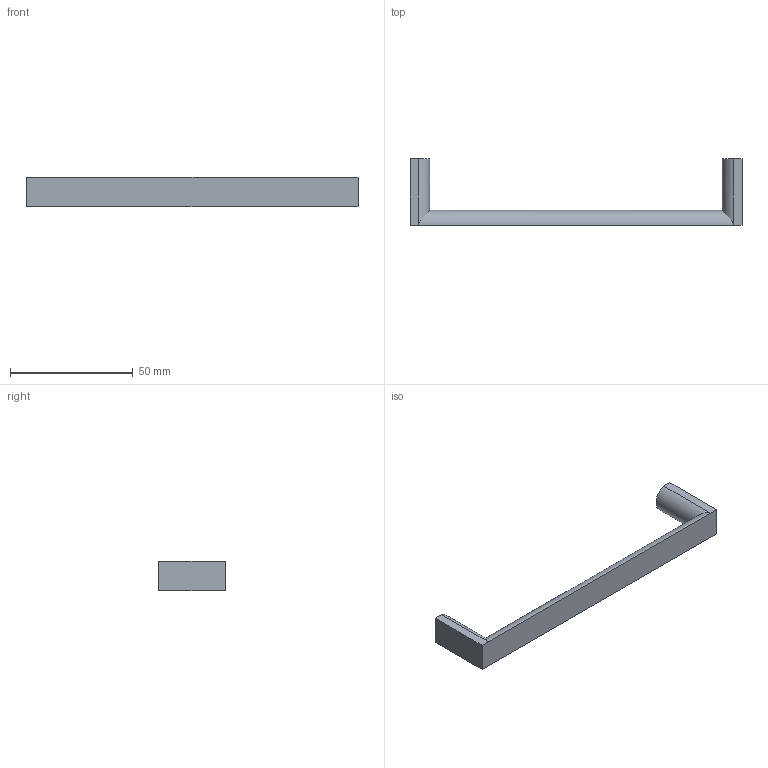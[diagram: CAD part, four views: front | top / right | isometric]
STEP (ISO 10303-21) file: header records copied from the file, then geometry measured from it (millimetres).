
FILE_DESCRIPTION( ( 'STEP AP214' ), '1' );
FILE_NAME( 'C:/Users/KOSH/Desktop/2021/Sunil/New folder/9995547.stp', '2021-11-15T13:10:53', ( '' ), ( '' ), ' ', 'PARTsolutions', ' ' );
FILE_SCHEMA( ( 'AUTOMOTIVE_DESIGN { 1 0 10303 214 1 1 1 1 }' ) );
Length unit declared in the file: millimetre
Products named in the file (1): _9995547
Bounding box: 135 x 27 x 12 mm (x, y, z)
Volume: 10939.4 mm3; surface area: 6158.8 mm2
Topology: 1 solids, 1 shells, 16 faces, 32 edges, 20 vertices
Faces by surface type: plane 11, cylinder 5
Full cylindrical faces by diameter (mm): 4 x2
Entity records: 642 total; most frequent: CARTESIAN_POINT 169, DIRECTION 68, ORIENTED_EDGE 60, EDGE_CURVE 30, AXIS2_PLACEMENT_3D 23, LINE 22, VECTOR 22, EDGE_LOOP 20
